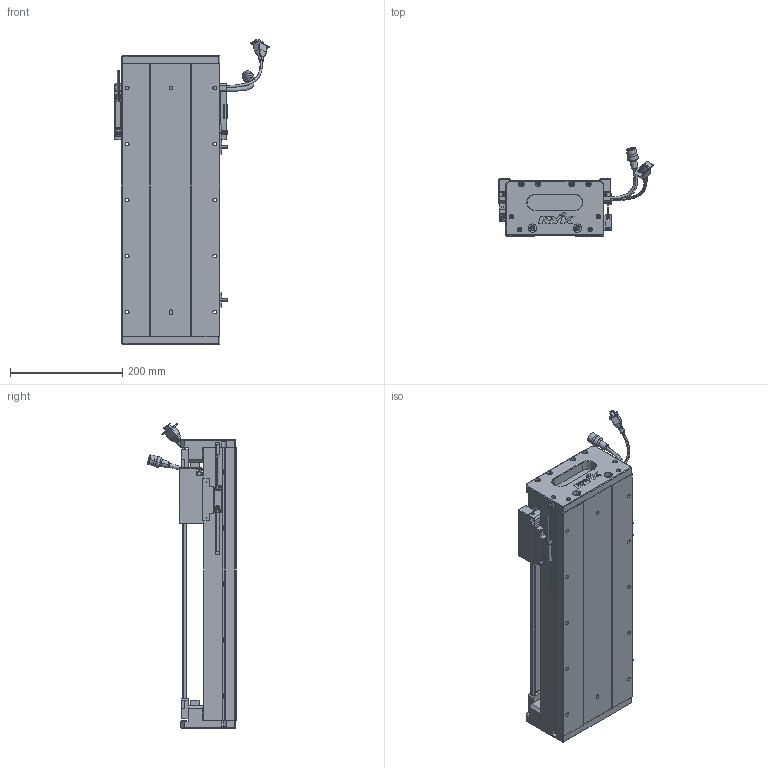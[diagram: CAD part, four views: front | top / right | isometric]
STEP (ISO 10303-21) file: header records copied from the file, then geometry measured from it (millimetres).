
FILE_DESCRIPTION (( 'STEP AP203' ), '1' );
FILE_NAME ('Z1-RY170D-1-L500-B-K.SLDASM_0300.step', '2021-05-17T08:51:21', ( '盈信电脑' ), ( '东莞市道滘镇水果街19号' ), 'SwSTEP 2.0', 'SolidWorks 2016', '' );
FILE_SCHEMA (( 'CONFIG_CONTROL_DESIGN' ));
Length unit declared in the file: millimetre
Products named in the file (36): RY170直线电机感应器672光电感应片; SCALE-Part-1; HARNESS-Part-2; SHIELDPLATE; SCALE; 140蚥薯蝶輸; SCALE-Part-2; 榋妏寠巭燃_暯_M2_2; COVER; SCREW-M1.6-2; 170-Z-臏賑輸盄裔(21遴); Z-RY170詩湍狟揤裔; HARNESS; Z-RY170詩湍奻揤裔; 覜茼ん672; SEAL-Part-1; SCREW-M1.6; PSLH080_PSLF2; PBU_SHEET; HOLDER0; SCREW-M1.6-3; LABEL-Part-1; SCREW-M1.7; SCREW-M1.7-1; COVER-Part-1; SEAL; 140雄赽晤鎢ん堤盄; HARNESS-Part-1; SCREW-M1.6-1; 080黍杅芛假蚾釱21遴; Z1-RY170-L500詩湍145mm遵_0300; Z1-RY170-L500耀郪菁釱_0300; LABEL; Z-170詩湍傷裔啣; Z1-RY170臏賑輸(21遴); Z1-RY170D-1-L500-B-K.SLDASM_0300
Assembly tree (41 placements, depth 4):
  Z1-RY170D-1-L500-B-K.SLDASM_0300
    Z1-RY170-L500耀郪菁釱_0300
    RY170直线电机感应器672光电感应片
    Z1-RY170臏賑輸(21遴)
    覜茼ん672  x3
    PSLH080_PSLF2
      SCALE
        SCALE-Part-1
        SCALE-Part-2
      HARNESS
        HARNESS-Part-1
        HARNESS-Part-2
      LABEL
        LABEL-Part-1
      COVER
        COVER-Part-1
      SEAL
        SEAL-Part-1
      榋妏寠巭燃_暯_M2_2
      SHIELDPLATE
      SCREW-M1.7
      SCREW-M1.7-1
      PBU_SHEET
      SCREW-M1.6
      SCREW-M1.6-1
      SCREW-M1.6-2
      SCREW-M1.6-3
      HOLDER0
    080黍杅芛假蚾釱21遴
    Z1-RY170-L500詩湍145mm遵_0300
    Z-170詩湍傷裔啣  x2
    Z-RY170詩湍奻揤裔  x2
    Z-RY170詩湍狟揤裔  x2
    140蚥薯蝶輸  x2
    170-Z-臏賑輸盄裔(21遴)
    140雄赽晤鎢ん堤盄
Bounding box: 275.34 x 158.11 x 543.73 mm (x, y, z)
Volume: 3442997.3 mm3; surface area: 844383.2 mm2
Topology: 36 solids, 36 shells, 2578 faces, 6757 edges, 4271 vertices
Faces by surface type: cylinder 1088, plane 1088, cone 280, torus 69, bspline 53
Entity records: 72073 total; most frequent: CARTESIAN_POINT 17232, DIRECTION 10703, ORIENTED_EDGE 10526, EDGE_CURVE 5263, AXIS2_PLACEMENT_3D 3876, VERTEX_POINT 3389, VECTOR 2951, LINE 2951
